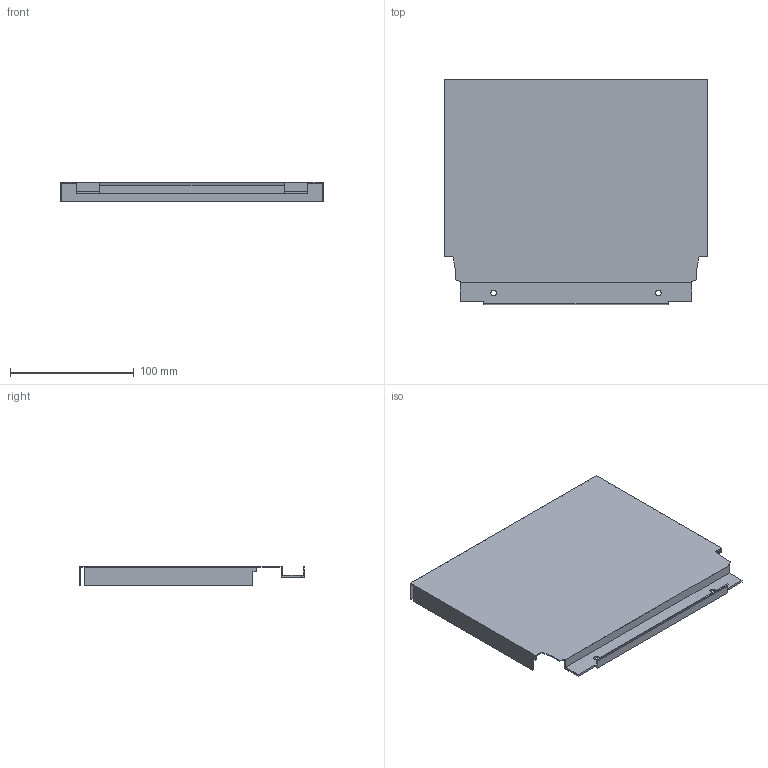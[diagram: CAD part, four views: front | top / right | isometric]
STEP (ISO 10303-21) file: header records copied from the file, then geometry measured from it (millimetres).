
FILE_DESCRIPTION (( 'STEP AP214' ), '1' );
FILE_NAME ('_DWD_XP Stahlrückwand_H182_KAB300_S18.step', '2010-07-08T12:57:51', ( 'grass' ), ( '' ), 'SwSTEP 2.0', 'SolidWorks 2010', '' );
FILE_SCHEMA (( 'AUTOMOTIVE_DESIGN' ));
Length unit declared in the file: millimetre
Products named in the file (1): _DWD_XP Stahlrückwand_H182_KAB300_S18
Bounding box: 213 x 182.49 x 16 mm (x, y, z)
Volume: 41083.2 mm3; surface area: 96512.1 mm2
Topology: 1 solids, 1 shells, 44 faces, 126 edges, 84 vertices
Faces by surface type: plane 40, cylinder 4
Entity records: 1460 total; most frequent: CARTESIAN_POINT 255, ORIENTED_EDGE 252, DIRECTION 224, EDGE_CURVE 126, LINE 118, VECTOR 118, VERTEX_POINT 84, AXIS2_PLACEMENT_3D 53
